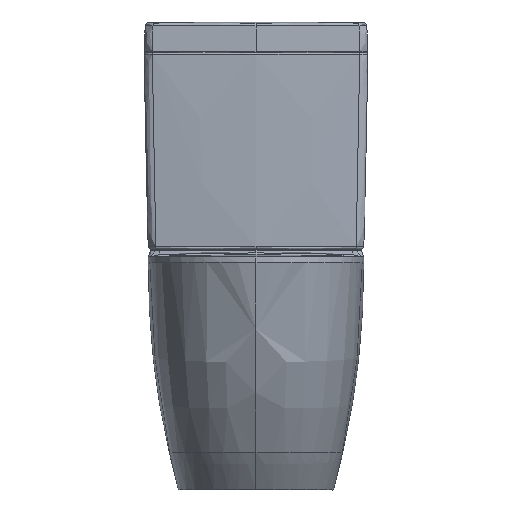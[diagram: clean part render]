
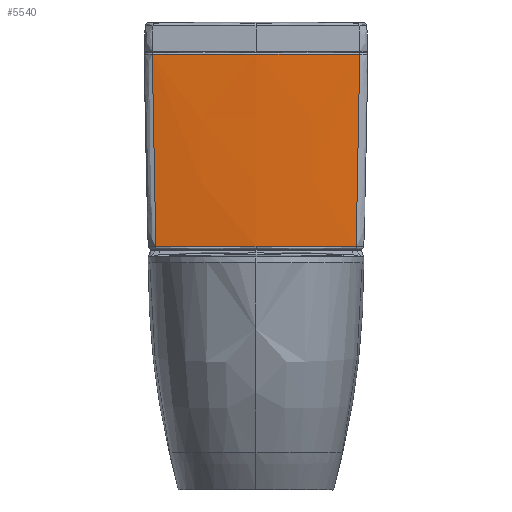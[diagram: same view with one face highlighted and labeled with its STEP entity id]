
A CAD part, front view. The second image highlights one B-rep face of the part: STEP entity #5540.
In plain terms, the highlighted free-form (B-spline) face has degree [3, 3] with [4, 7] control points.
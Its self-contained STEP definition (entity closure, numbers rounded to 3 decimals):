
#3242=FACE_OUTER_BOUND('',#8164,.T.);
#5540=ADVANCED_FACE('',(#3242),#6529,.F.);
#6529=B_SPLINE_SURFACE_WITH_KNOTS('',3,3,((#215086,#215087,#215088,#215089,
#215090,#215091,#215092),(#215093,#215094,#215095,#215096,#215097,#215098,
#215099),(#215100,#215101,#215102,#215103,#215104,#215105,#215106),(#215107,
#215108,#215109,#215110,#215111,#215112,#215113)),.UNSPECIFIED.,.F.,.F.,
 .F.,(4,4),(4,1,1,1,4),(0.,1.),(0.,0.25,0.5,0.75,1.),.UNSPECIFIED.);
#8164=EDGE_LOOP('',(#15073,#15074,#15075,#15076,#15077));
#15073=ORIENTED_EDGE('',*,*,#23189,.T.);
#15074=ORIENTED_EDGE('',*,*,#23190,.T.);
#15075=ORIENTED_EDGE('',*,*,#23191,.T.);
#15076=ORIENTED_EDGE('',*,*,#23192,.T.);
#15077=ORIENTED_EDGE('',*,*,#23193,.T.);
#19378=VERTEX_POINT('',#215053);
#19379=VERTEX_POINT('',#215054);
#19380=VERTEX_POINT('',#215061);
#19381=VERTEX_POINT('',#215076);
#19382=VERTEX_POINT('',#215081);
#23189=EDGE_CURVE('',#19378,#19379,#26785,.T.);
#23190=EDGE_CURVE('',#19379,#19380,#26786,.T.);
#23191=EDGE_CURVE('',#19380,#19381,#26787,.T.);
#23192=EDGE_CURVE('',#19381,#19382,#26788,.T.);
#23193=EDGE_CURVE('',#19382,#19378,#26789,.T.);
#26785=B_SPLINE_CURVE_WITH_KNOTS('',3,(#215040,#215041,#215042,#215043,
#215044,#215045,#215046,#215047,#215048,#215049,#215050,#215051,#215052),
 .UNSPECIFIED.,.F.,.F.,(4,2,1,1,1,2,2,4),(0.,0.25,0.375,
0.438,0.469,0.484,0.5,
1.),.UNSPECIFIED.);
#26786=B_SPLINE_CURVE_WITH_KNOTS('',3,(#215055,#215056,#215057,#215058,
#215059,#215060),.UNSPECIFIED.,.F.,.F.,(4,2,4),(0.,0.5,1.),
 .UNSPECIFIED.);
#26787=B_SPLINE_CURVE_WITH_KNOTS('',3,(#215062,#215063,#215064,#215065,
#215066,#215067,#215068,#215069,#215070,#215071,#215072,#215073,#215074,
#215075),.UNSPECIFIED.,.F.,.F.,(4,2,2,1,1,2,2,4),(0.,0.25,
0.375,0.438,0.469,0.484,
0.5,1.),.UNSPECIFIED.);
#26788=B_SPLINE_CURVE_WITH_KNOTS('',3,(#215077,#215078,#215079,#215080),
 .UNSPECIFIED.,.F.,.F.,(4,4),(0.,1.),.UNSPECIFIED.);
#26789=B_SPLINE_CURVE_WITH_KNOTS('',3,(#215082,#215083,#215084,#215085),
 .UNSPECIFIED.,.F.,.F.,(4,4),(0.,1.),.UNSPECIFIED.);
#215040=CARTESIAN_POINT('',(171.896,-147.866,4.83));
#215041=CARTESIAN_POINT('',(172.982,-148.66,31.758));
#215042=CARTESIAN_POINT('',(173.937,-149.464,58.976));
#215043=CARTESIAN_POINT('',(175.158,-150.684,100.232));
#215044=CARTESIAN_POINT('',(175.715,-151.298,120.968));
#215045=CARTESIAN_POINT('',(176.269,-152.021,145.348));
#215046=CARTESIAN_POINT('',(176.522,-152.383,157.585));
#215047=CARTESIAN_POINT('',(176.625,-152.539,162.839));
#215048=CARTESIAN_POINT('',(176.693,-152.643,166.344));
#215049=CARTESIAN_POINT('',(176.727,-152.696,168.137));
#215050=CARTESIAN_POINT('',(177.779,-154.376,224.758));
#215051=CARTESIAN_POINT('',(178.202,-156.013,279.792));
#215052=CARTESIAN_POINT('',(178.017,-157.656,334.941));
#215053=CARTESIAN_POINT('',(171.896,-147.866,4.83));
#215054=CARTESIAN_POINT('',(178.017,-157.656,334.941));
#215055=CARTESIAN_POINT('',(178.017,-157.656,334.941));
#215056=CARTESIAN_POINT('',(118.864,-163.383,334.945));
#215057=CARTESIAN_POINT('',(59.432,-166.207,334.94));
#215058=CARTESIAN_POINT('',(-59.431,-166.225,334.942));
#215059=CARTESIAN_POINT('',(-118.863,-163.391,334.946));
#215060=CARTESIAN_POINT('',(-178.016,-157.657,334.941));
#215061=CARTESIAN_POINT('',(-178.016,-157.657,334.941));
#215062=CARTESIAN_POINT('',(-178.016,-157.657,334.941));
#215063=CARTESIAN_POINT('',(-178.108,-156.835,307.364));
#215064=CARTESIAN_POINT('',(-178.049,-156.015,279.817));
#215065=CARTESIAN_POINT('',(-177.733,-154.787,238.544));
#215066=CARTESIAN_POINT('',(-177.59,-154.379,224.794));
#215067=CARTESIAN_POINT('',(-177.32,-153.767,204.182));
#215068=CARTESIAN_POINT('',(-177.17,-153.461,193.879));
#215069=CARTESIAN_POINT('',(-176.972,-153.104,181.864));
#215070=CARTESIAN_POINT('',(-176.881,-152.951,176.716));
#215071=CARTESIAN_POINT('',(-176.82,-152.849,173.284));
#215072=CARTESIAN_POINT('',(-176.789,-152.8,171.608));
#215073=CARTESIAN_POINT('',(-175.713,-151.082,113.693));
#215074=CARTESIAN_POINT('',(-174.066,-149.454,58.682));
#215075=CARTESIAN_POINT('',(-171.893,-147.866,4.83));
#215076=CARTESIAN_POINT('',(-171.893,-147.866,4.83));
#215077=CARTESIAN_POINT('',(-171.893,-147.866,4.83));
#215078=CARTESIAN_POINT('',(-113.693,-154.823,4.861));
#215079=CARTESIAN_POINT('',(-56.25,-158.118,4.877));
#215080=CARTESIAN_POINT('',(0.002,-158.118,4.877));
#215081=CARTESIAN_POINT('',(0.002,-158.118,4.877));
#215082=CARTESIAN_POINT('',(0.002,-158.118,4.877));
#215083=CARTESIAN_POINT('',(55.922,-158.118,4.878));
#215084=CARTESIAN_POINT('',(113.367,-154.863,4.862));
#215085=CARTESIAN_POINT('',(171.896,-147.866,4.83));
#215086=CARTESIAN_POINT('',(191.622,-156.355,337.192));
#215087=CARTESIAN_POINT('',(159.801,-159.674,337.195));
#215088=CARTESIAN_POINT('',(95.984,-164.628,337.194));
#215089=CARTESIAN_POINT('',(0.001,-167.085,337.19));
#215090=CARTESIAN_POINT('',(-95.982,-164.658,337.199));
#215091=CARTESIAN_POINT('',(-159.798,-159.674,337.194));
#215092=CARTESIAN_POINT('',(-191.619,-156.355,337.191));
#215093=CARTESIAN_POINT('',(191.949,-152.926,224.764));
#215094=CARTESIAN_POINT('',(160.091,-156.46,224.766));
#215095=CARTESIAN_POINT('',(96.175,-161.75,224.765));
#215096=CARTESIAN_POINT('',(0.001,-164.389,224.763));
#215097=CARTESIAN_POINT('',(-96.173,-161.771,224.768));
#215098=CARTESIAN_POINT('',(-160.088,-156.46,224.765));
#215099=CARTESIAN_POINT('',(-191.946,-152.926,224.763));
#215100=CARTESIAN_POINT('',(189.716,-149.496,112.329));
#215101=CARTESIAN_POINT('',(158.249,-153.245,112.33));
#215102=CARTESIAN_POINT('',(95.086,-158.873,112.329));
#215103=CARTESIAN_POINT('',(0.001,-161.692,112.328));
#215104=CARTESIAN_POINT('',(-95.083,-158.883,112.331));
#215105=CARTESIAN_POINT('',(-158.246,-153.245,112.329));
#215106=CARTESIAN_POINT('',(-189.713,-149.496,112.328));
#215107=CARTESIAN_POINT('',(184.973,-146.069,0.));
#215108=CARTESIAN_POINT('',(154.314,-150.034,0.));
#215109=CARTESIAN_POINT('',(92.742,-155.999,0.));
#215110=CARTESIAN_POINT('',(0.001,-158.998,0.));
#215111=CARTESIAN_POINT('',(-92.739,-155.999,0.));
#215112=CARTESIAN_POINT('',(-154.311,-150.034,0.));
#215113=CARTESIAN_POINT('',(-184.97,-146.069,0.));
